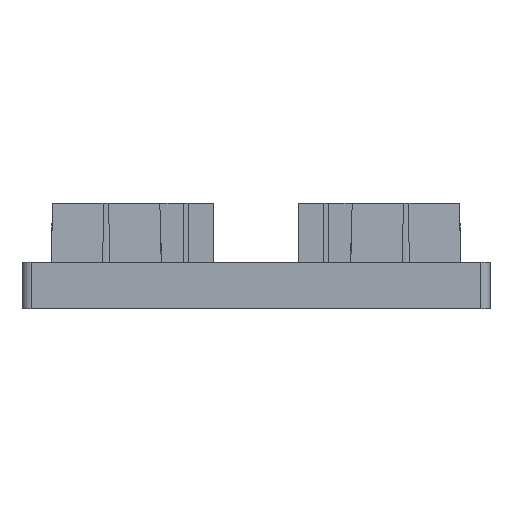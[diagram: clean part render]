
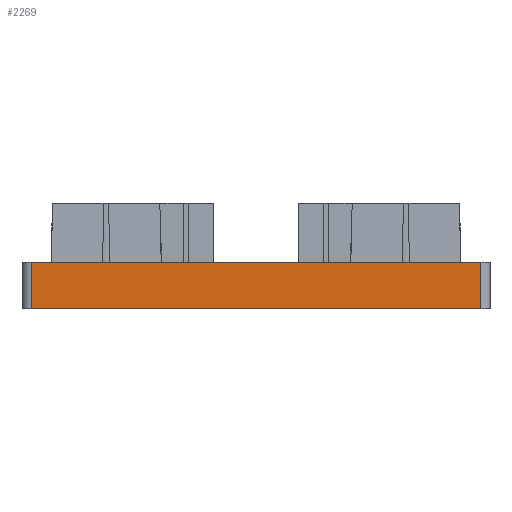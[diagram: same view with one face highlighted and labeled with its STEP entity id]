
A CAD part, front view. The second image highlights one B-rep face of the part: STEP entity #2269.
In plain terms, the highlighted planar face has unit normal (0, -1, 0).
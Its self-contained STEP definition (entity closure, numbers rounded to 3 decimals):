
#231=FACE_OUTER_BOUND('',#358,.T.);
#358=EDGE_LOOP('',(#2031,#2032,#2033,#2034));
#605=LINE('',#3707,#857);
#610=LINE('',#3724,#862);
#611=LINE('',#3727,#863);
#612=LINE('',#3728,#864);
#857=VECTOR('',#2978,48.);
#862=VECTOR('',#2997,5.);
#863=VECTOR('',#3000,5.);
#864=VECTOR('',#3001,48.);
#1074=VERTEX_POINT('',#3704);
#1075=VERTEX_POINT('',#3706);
#1080=VERTEX_POINT('',#3722);
#1081=VERTEX_POINT('',#3726);
#1392=EDGE_CURVE('',#1075,#1074,#605,.T.);
#1401=EDGE_CURVE('',#1075,#1080,#610,.T.);
#1402=EDGE_CURVE('',#1081,#1074,#611,.T.);
#1403=EDGE_CURVE('',#1081,#1080,#612,.T.);
#2031=ORIENTED_EDGE('',*,*,#1401,.F.);
#2032=ORIENTED_EDGE('',*,*,#1392,.T.);
#2033=ORIENTED_EDGE('',*,*,#1402,.F.);
#2034=ORIENTED_EDGE('',*,*,#1403,.T.);
#2151=PLANE('',#2435);
#2269=ADVANCED_FACE('',(#231),#2151,.T.);
#2435=AXIS2_PLACEMENT_3D('',#3725,#2998,#2999);
#2978=DIRECTION('',(1.,0.,0.));
#2997=DIRECTION('',(0.,0.,1.));
#2998=DIRECTION('center_axis',(0.,-1.,0.));
#2999=DIRECTION('ref_axis',(0.,0.,-1.));
#3000=DIRECTION('',(0.,0.,-1.));
#3001=DIRECTION('',(-1.,0.,0.));
#3704=CARTESIAN_POINT('',(24.,-50.,0.));
#3706=CARTESIAN_POINT('',(-24.,-50.,0.));
#3707=CARTESIAN_POINT('',(-24.,-50.,0.));
#3722=CARTESIAN_POINT('',(-24.,-50.,5.));
#3724=CARTESIAN_POINT('',(-24.,-50.,0.));
#3725=CARTESIAN_POINT('Origin',(25.,-50.,0.));
#3726=CARTESIAN_POINT('',(24.,-50.,5.));
#3727=CARTESIAN_POINT('',(24.,-50.,5.));
#3728=CARTESIAN_POINT('',(24.,-50.,5.));
